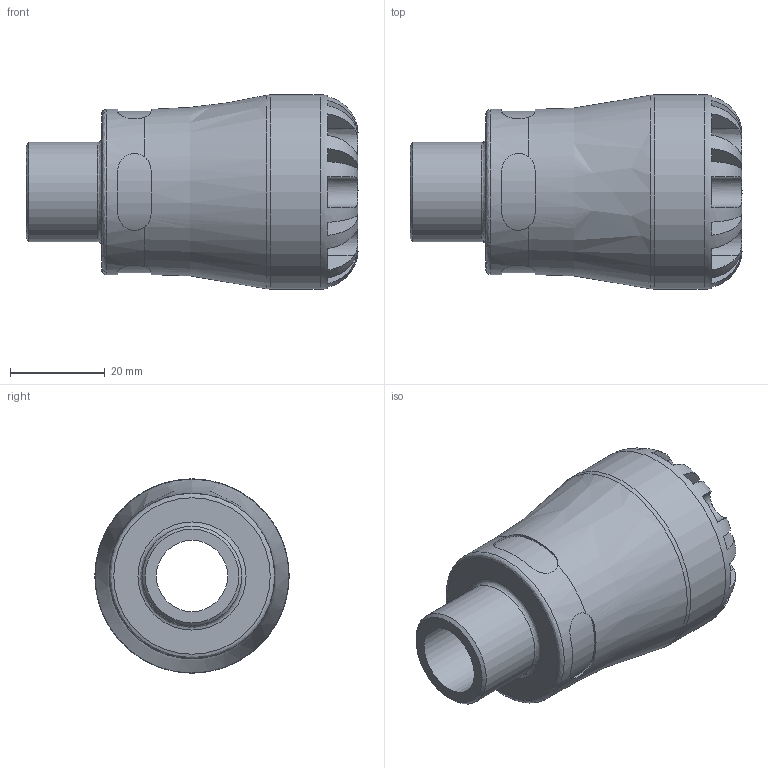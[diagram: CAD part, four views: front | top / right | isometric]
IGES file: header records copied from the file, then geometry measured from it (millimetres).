
Global section: file name: 100200020005_190200020005.ipt; native system: Autodesk Inventor 2015; preprocessor: unknown; author: KIM; date: 20170727.143938; units: millimetre
Bounding box: 70 x 41 x 41 mm (x, y, z)
Volume: 44472.6 mm3; surface area: 14118.9 mm2
Topology: 1 solids, 1 shells, 100 faces, 268 edges, 172 vertices
Faces by surface type: plane 60, revolution 24, cylinder 15, cone 1
Full cylindrical faces by diameter (mm): 20.955 x1, 34.85 x1, 41 x1
